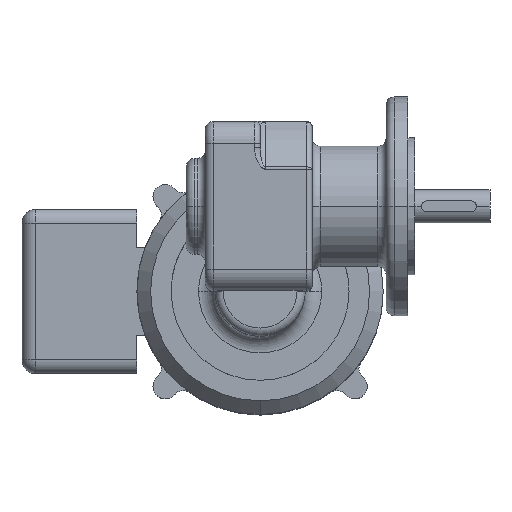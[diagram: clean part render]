
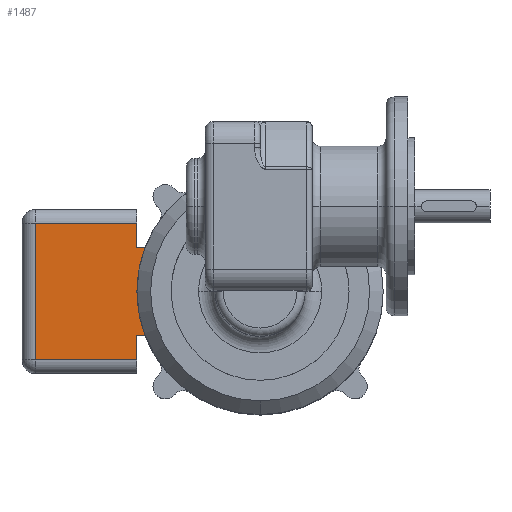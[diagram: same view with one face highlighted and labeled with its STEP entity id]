
A CAD part, top view. The second image highlights one B-rep face of the part: STEP entity #1487.
In plain terms, the highlighted planar face has unit normal (0, 0, 1).
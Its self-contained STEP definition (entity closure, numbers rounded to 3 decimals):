
#1469 = EDGE_CURVE ( 'NONE', #1495, #1470, #4878, .T. ) ;
#1470 = VERTEX_POINT ( 'NONE', #4936 ) ;
#1471 = ORIENTED_EDGE ( 'NONE', *, *, #1472, .T. ) ;
#1472 = EDGE_CURVE ( 'NONE', #1470, #2267, #4935, .T. ) ;
#1473 = ORIENTED_EDGE ( 'NONE', *, *, #2340, .F. ) ;
#1474 = ORIENTED_EDGE ( 'NONE', *, *, #1475, .F. ) ;
#1475 = EDGE_CURVE ( 'NONE', #1476, #2264, #4931, .T. ) ;
#1476 = VERTEX_POINT ( 'NONE', #4927 ) ;
#1477 = ORIENTED_EDGE ( 'NONE', *, *, #1478, .T. ) ;
#1478 = EDGE_CURVE ( 'NONE', #1476, #1479, #4926, .T. ) ;
#1479 = VERTEX_POINT ( 'NONE', #4922 ) ;
#1480 = ORIENTED_EDGE ( 'NONE', *, *, #1481, .T. ) ;
#1481 = EDGE_CURVE ( 'NONE', #1479, #1491, #4921, .T. ) ;
#1487 = ADVANCED_FACE ( 'NONE', ( #4912 ), #4911, .F. ) ;
#1488 = EDGE_LOOP ( 'NONE', ( #1489, #1493, #1496, #1471, #1473, #1474, #1477, #1480 ) ) ;
#1489 = ORIENTED_EDGE ( 'NONE', *, *, #1490, .T. ) ;
#1490 = EDGE_CURVE ( 'NONE', #1491, #1492, #4906, .T. ) ;
#1491 = VERTEX_POINT ( 'NONE', #4966 ) ;
#1492 = VERTEX_POINT ( 'NONE', #4965 ) ;
#1493 = ORIENTED_EDGE ( 'NONE', *, *, #1494, .T. ) ;
#1494 = EDGE_CURVE ( 'NONE', #1492, #1495, #4964, .T. ) ;
#1495 = VERTEX_POINT ( 'NONE', #4960 ) ;
#1496 = ORIENTED_EDGE ( 'NONE', *, *, #1469, .T. ) ;
#2264 = VERTEX_POINT ( 'NONE', #6256 ) ;
#2267 = VERTEX_POINT ( 'NONE', #6250 ) ;
#2340 = EDGE_CURVE ( 'NONE', #2264, #2267, #6383, .T. ) ;
#4875 = DIRECTION ( 'NONE',  ( 1., 0., 0. ) ) ;
#4876 = VECTOR ( 'NONE', #4875, 1000. ) ;
#4877 = CARTESIAN_POINT ( 'NONE',  ( 30.553, 45.277, -15. ) ) ;
#4878 = LINE ( 'NONE', #4877, #4876 ) ;
#4906 = LINE ( 'NONE', #4969, #4968 ) ;
#4907 = DIRECTION ( 'NONE',  ( -1., 0., 0. ) ) ;
#4908 = DIRECTION ( 'NONE',  ( 0., 0., -1. ) ) ;
#4909 = CARTESIAN_POINT ( 'NONE',  ( -15.447, 45.277, -15. ) ) ;
#4910 = AXIS2_PLACEMENT_3D ( 'NONE', #4909, #4908, #4907 ) ;
#4911 = PLANE ( 'NONE',  #4910 ) ;
#4912 = FACE_OUTER_BOUND ( 'NONE', #1488, .T. ) ;
#4918 = DIRECTION ( 'NONE',  ( 0., 1., 0. ) ) ;
#4919 = VECTOR ( 'NONE', #4918, 1000. ) ;
#4920 = CARTESIAN_POINT ( 'NONE',  ( 25.553, 45.277, -15. ) ) ;
#4921 = LINE ( 'NONE', #4920, #4919 ) ;
#4922 = CARTESIAN_POINT ( 'NONE',  ( 25.553, 45.277, -15. ) ) ;
#4923 = DIRECTION ( 'NONE',  ( 1., 0., 0. ) ) ;
#4924 = VECTOR ( 'NONE', #4923, 1000. ) ;
#4925 = CARTESIAN_POINT ( 'NONE',  ( 30.553, 45.277, -15. ) ) ;
#4926 = LINE ( 'NONE', #4925, #4924 ) ;
#4927 = CARTESIAN_POINT ( 'NONE',  ( 16.553, 45.277, -15. ) ) ;
#4928 = DIRECTION ( 'NONE',  ( 0., -1., 0. ) ) ;
#4929 = VECTOR ( 'NONE', #4928, 1000. ) ;
#4930 = CARTESIAN_POINT ( 'NONE',  ( 16.553, 45.277, -15. ) ) ;
#4931 = LINE ( 'NONE', #4930, #4929 ) ;
#4932 = DIRECTION ( 'NONE',  ( 0., -1., 0. ) ) ;
#4933 = VECTOR ( 'NONE', #4932, 1000. ) ;
#4934 = CARTESIAN_POINT ( 'NONE',  ( -15.447, 45.277, -15. ) ) ;
#4935 = LINE ( 'NONE', #4934, #4933 ) ;
#4936 = CARTESIAN_POINT ( 'NONE',  ( -15.447, 45.277, -15. ) ) ;
#4960 = CARTESIAN_POINT ( 'NONE',  ( -24.447, 45.277, -15. ) ) ;
#4961 = DIRECTION ( 'NONE',  ( 0., -1., 0. ) ) ;
#4962 = VECTOR ( 'NONE', #4961, 1000. ) ;
#4963 = CARTESIAN_POINT ( 'NONE',  ( -24.447, 45.277, -15. ) ) ;
#4964 = LINE ( 'NONE', #4963, #4962 ) ;
#4965 = CARTESIAN_POINT ( 'NONE',  ( -24.447, 82.277, -15. ) ) ;
#4966 = CARTESIAN_POINT ( 'NONE',  ( 25.553, 82.277, -15. ) ) ;
#4967 = DIRECTION ( 'NONE',  ( -1., 0., 0. ) ) ;
#4968 = VECTOR ( 'NONE', #4967, 1000. ) ;
#4969 = CARTESIAN_POINT ( 'NONE',  ( -15.447, 82.277, -15. ) ) ;
#6250 = CARTESIAN_POINT ( 'NONE',  ( -15.447, 42.336, -15. ) ) ;
#6256 = CARTESIAN_POINT ( 'NONE',  ( 16.553, 42.336, -15. ) ) ;
#6379 = DIRECTION ( 'NONE',  ( -1., 0., 0. ) ) ;
#6380 = DIRECTION ( 'NONE',  ( 0., 0., 1. ) ) ;
#6381 = CARTESIAN_POINT ( 'NONE',  ( 0.553, 0.277, -15. ) ) ;
#6382 = AXIS2_PLACEMENT_3D ( 'NONE', #6381, #6380, #6379 ) ;
#6383 = CIRCLE ( 'NONE', #6382, 45. ) ;
